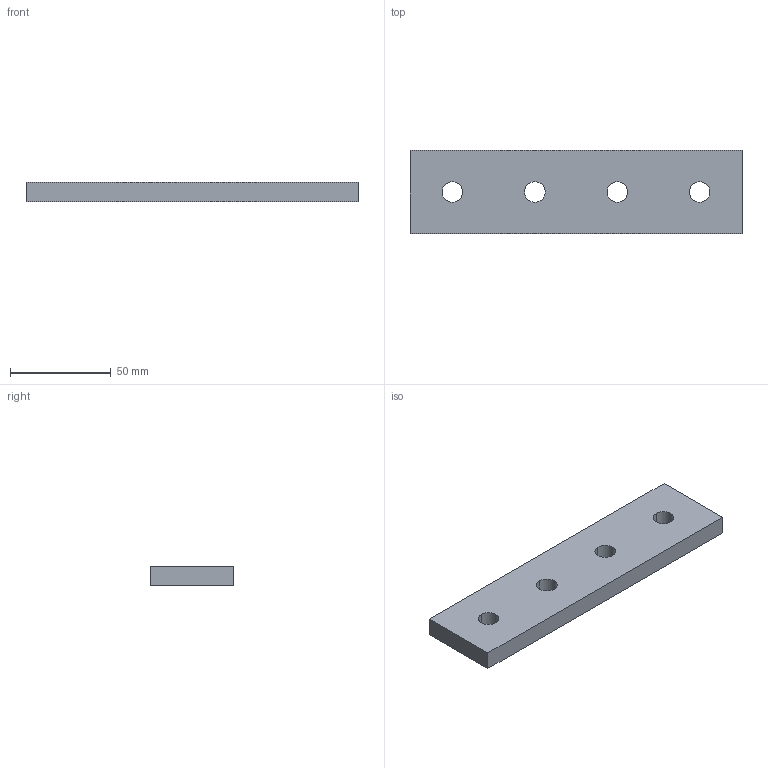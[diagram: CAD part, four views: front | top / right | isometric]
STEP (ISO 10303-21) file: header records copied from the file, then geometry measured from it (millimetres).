
FILE_DESCRIPTION(('TurboCAD Mac Pro'),'Build 980');
FILE_NAME('F20V-2504.stp',' ',(''),(''),'ACIS Interop','IMSI','TurboCAD Mac Pro BY IMSI, INCORPORATED');
FILE_SCHEMA(('automotive_design'));
Length unit declared in the file: inch
Products named in the file (1): 1
Bounding box: 165.1 x 41.27 x 9.53 mm (x, y, z)
Volume: 61768 mm3; surface area: 18127.2 mm2
Topology: 1 solids, 1 shells, 22 faces, 60 edges, 40 vertices
Faces by surface type: bspline 16, plane 6
Entity records: 996 total; most frequent: CARTESIAN_POINT 331, ORIENTED_EDGE 120, EDGE_CURVE 60, DIRECTION 42, VERTEX_POINT 40, B_SPLINE_CURVE_WITH_KNOTS 32, EDGE_LOOP 30, LINE 28
